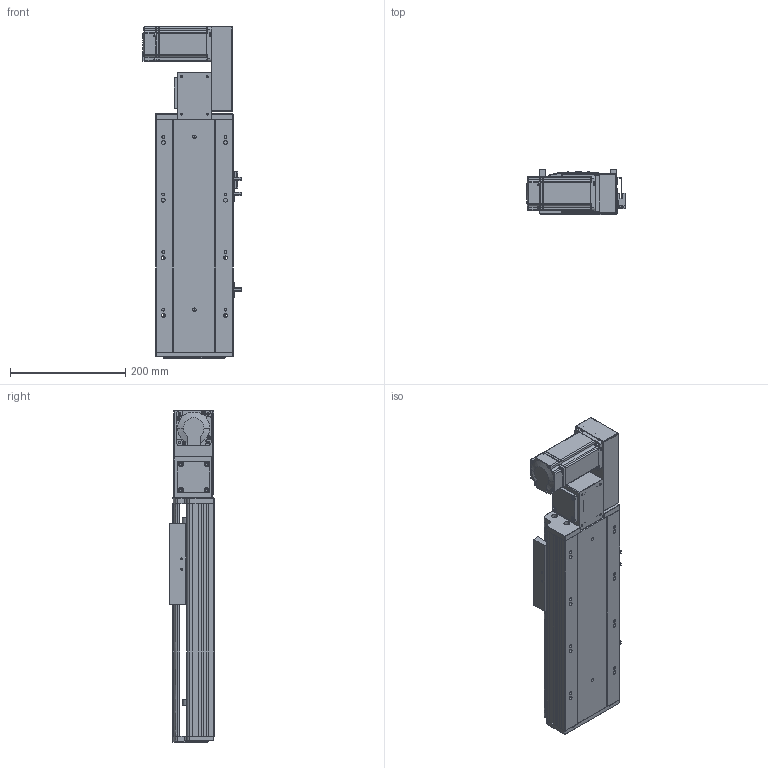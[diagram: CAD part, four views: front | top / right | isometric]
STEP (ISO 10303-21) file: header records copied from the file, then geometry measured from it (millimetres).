
FILE_DESCRIPTION (( 'STEP AP203' ), '1' );
FILE_NAME ('RY140-T-300-RK.SLDASM_150.step', '2021-03-01T06:44:42', ( '盈信电脑' ), ( '东莞市道滘镇水果街19号' ), 'SwSTEP 2.0', 'SolidWorks 2012', '' );
FILE_SCHEMA (( 'CONFIG_CONTROL_DESIGN' ));
Products named in the file (17): RY140-T-300-RK.SLDASM_150; RY120-T蹟翐M4; 15; RY120-T主同步轮轴承压盖; RY140-T翋肮謫裔啣; RY140-T萇儂欶; RY140-T萇儂假蚾啣; 滅袉蝶18-10; RY120-T肮祭湍揤踡輸2; RY140-T翋肮祭謫盓傅釱; RY120-T肮祭湍揤踡輸1; RY120外置感应片(140共用）; 覜茼ん672; RY140-T-300-DR倰第奻裔啣_150; RY140綴裔啣; RY140肮祭謫臏賑輸; RY140-T-300-DR倰第菁釱_150
Assembly tree (22 placements, depth 2):
  RY140-T-300-RK.SLDASM_150
    RY140-T-300-DR倰第菁釱_150
    RY140肮祭謫臏賑輸
    RY140-T-300-DR倰第奻裔啣_150
    RY140綴裔啣
    覜茼ん672  x3
    RY120外置感应片(140共用）
    RY120-T肮祭湍揤踡輸2
    RY120-T肮祭湍揤踡輸1
    RY140-T翋肮祭謫盓傅釱
    滅袉蝶18-10  x2
    RY140-T翋肮謫裔啣
    RY140-T萇儂欶
    RY140-T萇儂假蚾啣
    RY120-T蹟翐M4  x4
    15
    RY120-T主同步轮轴承压盖
Bounding box: 170.7 x 78 x 576.5 mm (x, y, z)
Volume: 1963745.9 mm3; surface area: 694287.4 mm2
Topology: 22 solids, 22 shells, 2503 faces, 6817 edges, 4408 vertices
Faces by surface type: plane 1381, cylinder 860, cone 162, bspline 100
Entity records: 78890 total; most frequent: CARTESIAN_POINT 19339, ORIENTED_EDGE 12234, DIRECTION 11577, EDGE_CURVE 6117, LINE 4021, VECTOR 4021, VERTEX_POINT 4007, AXIS2_PLACEMENT_3D 3778
